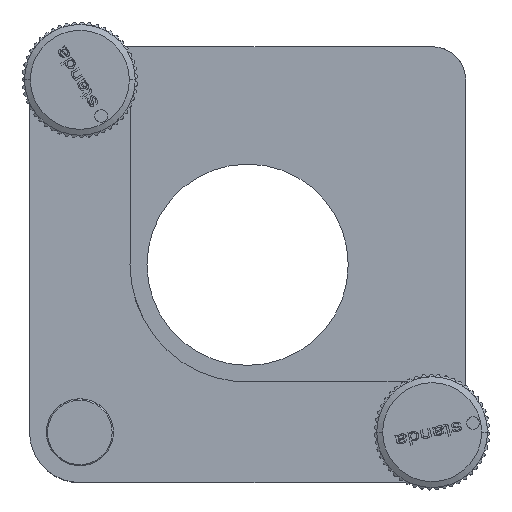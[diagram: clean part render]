
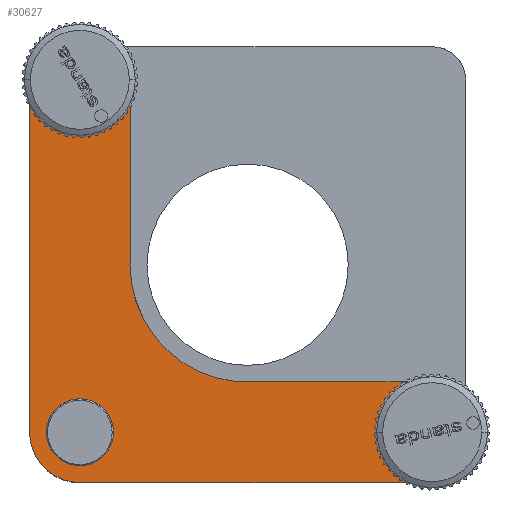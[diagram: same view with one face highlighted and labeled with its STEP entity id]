
A CAD part, top view. The second image highlights one B-rep face of the part: STEP entity #30627.
In plain terms, the highlighted planar face has unit normal (0, 0, 1).
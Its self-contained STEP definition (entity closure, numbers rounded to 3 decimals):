
#115 = VERTEX_POINT ( 'NONE', #34660 ) ;
#117 = EDGE_CURVE ( 'NONE', #115, #197, #34659, .T. ) ;
#150 = VERTEX_POINT ( 'NONE', #34670 ) ;
#151 = VERTEX_POINT ( 'NONE', #34671 ) ;
#152 = EDGE_CURVE ( 'NONE', #151, #150, #34728, .T. ) ;
#197 = VERTEX_POINT ( 'NONE', #34811 ) ;
#256 = EDGE_CURVE ( 'NONE', #257, #266, #34957, .T. ) ;
#257 = VERTEX_POINT ( 'NONE', #34952 ) ;
#266 = VERTEX_POINT ( 'NONE', #34998 ) ;
#13699 = CARTESIAN_POINT ( 'NONE',  ( -1.074, 47.962, 16. ) ) ;
#14150 = CARTESIAN_POINT ( 'NONE',  ( 42.926, 5.962, 16. ) ) ;
#14151 = CARTESIAN_POINT ( 'NONE',  ( 50.926, 5.962, 16. ) ) ;
#14265 = DIRECTION ( 'NONE',  ( 1., 0., 0. ) ) ;
#14266 = DIRECTION ( 'NONE',  ( 0., 0., -1. ) ) ;
#14267 = CARTESIAN_POINT ( 'NONE',  ( 46.926, 5.962, 16. ) ) ;
#14268 = AXIS2_PLACEMENT_3D ( 'NONE', #14267, #14266, #14265 ) ;
#14269 = CIRCLE ( 'NONE', #14268, 4. ) ;
#14270 = DIRECTION ( 'NONE',  ( 1., 0., 0. ) ) ;
#14271 = DIRECTION ( 'NONE',  ( 0., 0., -1. ) ) ;
#14272 = CARTESIAN_POINT ( 'NONE',  ( 4.926, 5.962, 16. ) ) ;
#14273 = AXIS2_PLACEMENT_3D ( 'NONE', #14272, #14271, #14270 ) ;
#14274 = CIRCLE ( 'NONE', #14273, 4. ) ;
#14281 = CARTESIAN_POINT ( 'NONE',  ( 0.926, 5.962, 16. ) ) ;
#14319 = CARTESIAN_POINT ( 'NONE',  ( 8.926, 5.962, 16. ) ) ;
#16253 = DIRECTION ( 'NONE',  ( 1., 0., 0. ) ) ;
#16254 = DIRECTION ( 'NONE',  ( 0., 0., -1. ) ) ;
#16255 = AXIS2_PLACEMENT_3D ( 'NONE', #16260, #16254, #16253 ) ;
#16256 = CIRCLE ( 'NONE', #16255, 4. ) ;
#16260 = CARTESIAN_POINT ( 'NONE',  ( 4.926, 5.962, 16. ) ) ;
#16341 = AXIS2_PLACEMENT_3D ( 'NONE', #16406, #16405, #16404 ) ;
#16342 = CIRCLE ( 'NONE', #16341, 4. ) ;
#16360 = DIRECTION ( 'NONE',  ( 1., 0., 0. ) ) ;
#16361 = DIRECTION ( 'NONE',  ( 0., 0., -1. ) ) ;
#16362 = AXIS2_PLACEMENT_3D ( 'NONE', #16368, #16361, #16360 ) ;
#16363 = CIRCLE ( 'NONE', #16362, 4. ) ;
#16368 = CARTESIAN_POINT ( 'NONE',  ( 4.926, 47.962, 16. ) ) ;
#16404 = DIRECTION ( 'NONE',  ( 1., 0., 0. ) ) ;
#16405 = DIRECTION ( 'NONE',  ( 0., 0., -1. ) ) ;
#16406 = CARTESIAN_POINT ( 'NONE',  ( 46.926, 5.962, 16. ) ) ;
#16439 = CARTESIAN_POINT ( 'NONE',  ( 46.926, 11.962, 16. ) ) ;
#16440 = DIRECTION ( 'NONE',  ( 1., 0., 0. ) ) ;
#16441 = DIRECTION ( 'NONE',  ( 0., 0., -1. ) ) ;
#16442 = AXIS2_PLACEMENT_3D ( 'NONE', #16449, #16441, #16440 ) ;
#16443 = CIRCLE ( 'NONE', #16442, 6. ) ;
#16449 = CARTESIAN_POINT ( 'NONE',  ( 46.926, 5.962, 16. ) ) ;
#16451 = DIRECTION ( 'NONE',  ( -1., 0., 0. ) ) ;
#16452 = VECTOR ( 'NONE', #16451, 1000. ) ;
#16453 = CARTESIAN_POINT ( 'NONE',  ( 10.926, -0.038, 16. ) ) ;
#16454 = LINE ( 'NONE', #16453, #16452 ) ;
#16478 = DIRECTION ( 'NONE',  ( 1., 0., 0. ) ) ;
#16479 = DIRECTION ( 'NONE',  ( 0., 0., 1. ) ) ;
#16480 = CARTESIAN_POINT ( 'NONE',  ( 4.926, 26.962, 16. ) ) ;
#16481 = AXIS2_PLACEMENT_3D ( 'NONE', #16480, #16479, #16478 ) ;
#16482 = PLANE ( 'NONE',  #16481 ) ;
#16483 = FACE_OUTER_BOUND ( 'NONE', #30637, .T. ) ;
#16484 = FACE_BOUND ( 'NONE', #30634, .T. ) ;
#16485 = FACE_BOUND ( 'NONE', #30631, .T. ) ;
#16486 = DIRECTION ( 'NONE',  ( 1., 0., 0. ) ) ;
#16487 = DIRECTION ( 'NONE',  ( 0., 0., -1. ) ) ;
#16488 = CARTESIAN_POINT ( 'NONE',  ( 4.926, 47.962, 16. ) ) ;
#16489 = AXIS2_PLACEMENT_3D ( 'NONE', #16488, #16487, #16486 ) ;
#16490 = CIRCLE ( 'NONE', #16489, 6. ) ;
#16491 = FACE_BOUND ( 'NONE', #30628, .T. ) ;
#16492 = CARTESIAN_POINT ( 'NONE',  ( 10.926, 47.962, 16. ) ) ;
#16493 = DIRECTION ( 'NONE',  ( 0., -1., 0. ) ) ;
#16494 = VECTOR ( 'NONE', #16493, 1000. ) ;
#16495 = CARTESIAN_POINT ( 'NONE',  ( 10.926, 53.962, 16. ) ) ;
#16496 = LINE ( 'NONE', #16495, #16494 ) ;
#16497 = DIRECTION ( 'NONE',  ( -1., 0., 0. ) ) ;
#16498 = DIRECTION ( 'NONE',  ( 0., 0., -1. ) ) ;
#16499 = CARTESIAN_POINT ( 'NONE',  ( 24.926, 25.962, 16. ) ) ;
#16500 = AXIS2_PLACEMENT_3D ( 'NONE', #16499, #16498, #16497 ) ;
#16501 = CIRCLE ( 'NONE', #16500, 14.025 ) ;
#16502 = CARTESIAN_POINT ( 'NONE',  ( 25.763, 11.962, 16. ) ) ;
#16503 = DIRECTION ( 'NONE',  ( 1., 0., 0. ) ) ;
#16504 = VECTOR ( 'NONE', #16503, 1000. ) ;
#16505 = CARTESIAN_POINT ( 'NONE',  ( -1.074, 11.962, 16. ) ) ;
#16506 = LINE ( 'NONE', #16505, #16504 ) ;
#16574 = CIRCLE ( 'NONE', #16638, 6. ) ;
#16575 = CARTESIAN_POINT ( 'NONE',  ( -1.074, 5.962, 16. ) ) ;
#16576 = DIRECTION ( 'NONE',  ( 0., 1., 0. ) ) ;
#16577 = VECTOR ( 'NONE', #16576, 1000. ) ;
#16578 = CARTESIAN_POINT ( 'NONE',  ( -1.074, -0.038, 16. ) ) ;
#16579 = LINE ( 'NONE', #16578, #16577 ) ;
#16634 = CARTESIAN_POINT ( 'NONE',  ( 4.926, -0.038, 16. ) ) ;
#16635 = DIRECTION ( 'NONE',  ( 1., 0., 0. ) ) ;
#16636 = DIRECTION ( 'NONE',  ( 0., 0., -1. ) ) ;
#16637 = CARTESIAN_POINT ( 'NONE',  ( 4.926, 5.962, 16. ) ) ;
#16638 = AXIS2_PLACEMENT_3D ( 'NONE', #16637, #16636, #16635 ) ;
#29272 = VERTEX_POINT ( 'NONE', #13699 ) ;
#29472 = VERTEX_POINT ( 'NONE', #14151 ) ;
#29473 = VERTEX_POINT ( 'NONE', #14150 ) ;
#29512 = VERTEX_POINT ( 'NONE', #14281 ) ;
#29517 = EDGE_CURVE ( 'NONE', #29523, #29512, #14274, .T. ) ;
#29518 = EDGE_CURVE ( 'NONE', #29472, #29473, #14269, .T. ) ;
#29523 = VERTEX_POINT ( 'NONE', #14319 ) ;
#30491 = EDGE_CURVE ( 'NONE', #29512, #29523, #16256, .T. ) ;
#30546 = EDGE_CURVE ( 'NONE', #266, #257, #16363, .T. ) ;
#30557 = EDGE_CURVE ( 'NONE', #29473, #29472, #16342, .T. ) ;
#30604 = ORIENTED_EDGE ( 'NONE', *, *, #30605, .F. ) ;
#30605 = EDGE_CURVE ( 'NONE', #197, #30685, #16454, .T. ) ;
#30606 = ORIENTED_EDGE ( 'NONE', *, *, #117, .F. ) ;
#30611 = ORIENTED_EDGE ( 'NONE', *, *, #30612, .F. ) ;
#30612 = EDGE_CURVE ( 'NONE', #30613, #115, #16443, .T. ) ;
#30613 = VERTEX_POINT ( 'NONE', #16439 ) ;
#30614 = ORIENTED_EDGE ( 'NONE', *, *, #30615, .F. ) ;
#30615 = EDGE_CURVE ( 'NONE', #30616, #30613, #16506, .T. ) ;
#30616 = VERTEX_POINT ( 'NONE', #16502 ) ;
#30617 = ORIENTED_EDGE ( 'NONE', *, *, #30618, .T. ) ;
#30618 = EDGE_CURVE ( 'NONE', #30616, #151, #16501, .T. ) ;
#30619 = ORIENTED_EDGE ( 'NONE', *, *, #152, .T. ) ;
#30620 = ORIENTED_EDGE ( 'NONE', *, *, #30621, .F. ) ;
#30621 = EDGE_CURVE ( 'NONE', #30622, #150, #16496, .T. ) ;
#30622 = VERTEX_POINT ( 'NONE', #16492 ) ;
#30623 = ORIENTED_EDGE ( 'NONE', *, *, #30624, .F. ) ;
#30624 = EDGE_CURVE ( 'NONE', #29272, #30622, #16490, .T. ) ;
#30627 = ADVANCED_FACE ( 'NONE', ( #16491, #16485, #16484, #16483 ), #16482, .T. ) ;
#30628 = EDGE_LOOP ( 'NONE', ( #30629, #30630 ) ) ;
#30629 = ORIENTED_EDGE ( 'NONE', *, *, #256, .T. ) ;
#30630 = ORIENTED_EDGE ( 'NONE', *, *, #30546, .T. ) ;
#30631 = EDGE_LOOP ( 'NONE', ( #30632, #30633 ) ) ;
#30632 = ORIENTED_EDGE ( 'NONE', *, *, #29517, .T. ) ;
#30633 = ORIENTED_EDGE ( 'NONE', *, *, #30491, .T. ) ;
#30634 = EDGE_LOOP ( 'NONE', ( #30635, #30636 ) ) ;
#30635 = ORIENTED_EDGE ( 'NONE', *, *, #29518, .T. ) ;
#30636 = ORIENTED_EDGE ( 'NONE', *, *, #30557, .T. ) ;
#30637 = EDGE_LOOP ( 'NONE', ( #30611, #30614, #30617, #30619, #30620, #30623, #30680, #30683, #30604, #30606 ) ) ;
#30680 = ORIENTED_EDGE ( 'NONE', *, *, #30681, .F. ) ;
#30681 = EDGE_CURVE ( 'NONE', #30682, #29272, #16579, .T. ) ;
#30682 = VERTEX_POINT ( 'NONE', #16575 ) ;
#30683 = ORIENTED_EDGE ( 'NONE', *, *, #30684, .F. ) ;
#30684 = EDGE_CURVE ( 'NONE', #30685, #30682, #16574, .T. ) ;
#30685 = VERTEX_POINT ( 'NONE', #16634 ) ;
#34655 = DIRECTION ( 'NONE',  ( 1., 0., 0. ) ) ;
#34656 = DIRECTION ( 'NONE',  ( 0., 0., -1. ) ) ;
#34657 = CARTESIAN_POINT ( 'NONE',  ( 46.926, 5.962, 16. ) ) ;
#34658 = AXIS2_PLACEMENT_3D ( 'NONE', #34657, #34656, #34655 ) ;
#34659 = CIRCLE ( 'NONE', #34658, 6. ) ;
#34660 = CARTESIAN_POINT ( 'NONE',  ( 52.926, 5.962, 16. ) ) ;
#34670 = CARTESIAN_POINT ( 'NONE',  ( 10.926, 26.799, 16. ) ) ;
#34671 = CARTESIAN_POINT ( 'NONE',  ( 10.901, 25.962, 16. ) ) ;
#34724 = DIRECTION ( 'NONE',  ( -1., 0., 0. ) ) ;
#34725 = DIRECTION ( 'NONE',  ( 0., 0., -1. ) ) ;
#34726 = CARTESIAN_POINT ( 'NONE',  ( 24.926, 25.962, 16. ) ) ;
#34727 = AXIS2_PLACEMENT_3D ( 'NONE', #34726, #34725, #34724 ) ;
#34728 = CIRCLE ( 'NONE', #34727, 14.025 ) ;
#34811 = CARTESIAN_POINT ( 'NONE',  ( 46.926, -0.038, 16. ) ) ;
#34952 = CARTESIAN_POINT ( 'NONE',  ( 8.926, 47.962, 16. ) ) ;
#34953 = DIRECTION ( 'NONE',  ( 1., 0., 0. ) ) ;
#34954 = DIRECTION ( 'NONE',  ( 0., 0., -1. ) ) ;
#34955 = CARTESIAN_POINT ( 'NONE',  ( 4.926, 47.962, 16. ) ) ;
#34956 = AXIS2_PLACEMENT_3D ( 'NONE', #34955, #34954, #34953 ) ;
#34957 = CIRCLE ( 'NONE', #34956, 4. ) ;
#34998 = CARTESIAN_POINT ( 'NONE',  ( 0.926, 47.962, 16. ) ) ;
